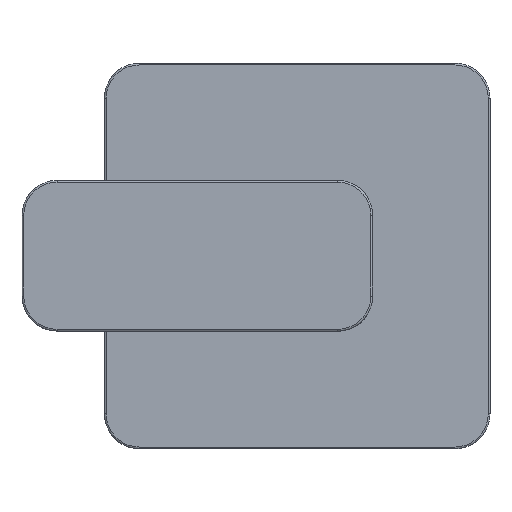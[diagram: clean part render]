
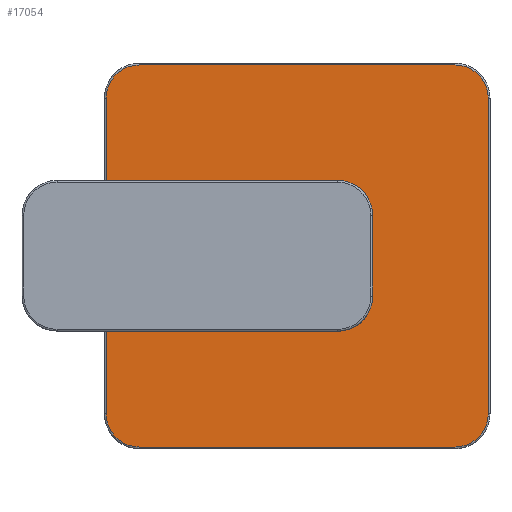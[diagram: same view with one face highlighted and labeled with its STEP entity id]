
A CAD part, top view. The second image highlights one B-rep face of the part: STEP entity #17054.
In plain terms, the highlighted planar face has unit normal (0, 0, 1).
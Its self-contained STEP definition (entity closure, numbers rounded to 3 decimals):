
#16037=CARTESIAN_POINT('',(45.,-45.,1.25));
#16038=DIRECTION('',(0.,0.,-1.));
#16039=DIRECTION('',(1.,0.,0.));
#16040=AXIS2_PLACEMENT_3D('',#16037,#16038,#16039);
#16042=CARTESIAN_POINT('',(-45.,-45.,1.25));
#16043=DIRECTION('',(0.,0.,-1.));
#16044=DIRECTION('',(0.,-1.,0.));
#16045=AXIS2_PLACEMENT_3D('',#16042,#16043,#16044);
#16047=CARTESIAN_POINT('',(-45.,45.,1.25));
#16048=DIRECTION('',(0.,0.,-1.));
#16049=DIRECTION('',(-1.,0.,0.));
#16050=AXIS2_PLACEMENT_3D('',#16047,#16048,#16049);
#16052=CARTESIAN_POINT('',(45.,45.,1.25));
#16053=DIRECTION('',(0.,0.,-1.));
#16054=DIRECTION('',(0.,1.,0.));
#16055=AXIS2_PLACEMENT_3D('',#16052,#16053,#16054);
#16057=DIRECTION('',(0.,1.,0.));
#16058=VECTOR('',#16057,22.);
#16059=CARTESIAN_POINT('',(21.3,-11.,1.25));
#16060=LINE('',#16059,#16058);
#16061=CARTESIAN_POINT('',(11.,11.,1.25));
#16062=DIRECTION('',(0.,0.,1.));
#16063=DIRECTION('',(1.,0.,0.));
#16064=AXIS2_PLACEMENT_3D('',#16061,#16062,#16063);
#16066=DIRECTION('',(-1.,0.,0.));
#16067=VECTOR('',#16066,22.);
#16068=CARTESIAN_POINT('',(11.,21.3,1.25));
#16069=LINE('',#16068,#16067);
#16070=CARTESIAN_POINT('',(-11.,11.,1.25));
#16071=DIRECTION('',(0.,0.,1.));
#16072=DIRECTION('',(0.,1.,0.));
#16073=AXIS2_PLACEMENT_3D('',#16070,#16071,#16072);
#16075=DIRECTION('',(0.,-1.,0.));
#16076=VECTOR('',#16075,22.);
#16077=CARTESIAN_POINT('',(-21.3,11.,1.25));
#16078=LINE('',#16077,#16076);
#16079=CARTESIAN_POINT('',(-11.,-11.,1.25));
#16080=DIRECTION('',(0.,0.,1.));
#16081=DIRECTION('',(-1.,0.,0.));
#16082=AXIS2_PLACEMENT_3D('',#16079,#16080,#16081);
#16084=DIRECTION('',(1.,0.,0.));
#16085=VECTOR('',#16084,22.);
#16086=CARTESIAN_POINT('',(-11.,-21.3,1.25));
#16087=LINE('',#16086,#16085);
#16088=CARTESIAN_POINT('',(11.,-11.,1.25));
#16089=DIRECTION('',(0.,0.,1.));
#16090=DIRECTION('',(0.,-1.,0.));
#16091=AXIS2_PLACEMENT_3D('',#16088,#16089,#16090);
#16093=DIRECTION('',(1.,0.,0.));
#16094=VECTOR('',#16093,90.);
#16095=CARTESIAN_POINT('',(-45.,-54.5,1.25));
#16096=LINE('',#16095,#16094);
#16124=DIRECTION('',(0.,-1.,0.));
#16125=VECTOR('',#16124,90.);
#16126=CARTESIAN_POINT('',(-54.5,45.,1.25));
#16127=LINE('',#16126,#16125);
#16155=DIRECTION('',(-1.,0.,0.));
#16156=VECTOR('',#16155,90.);
#16157=CARTESIAN_POINT('',(45.,54.5,1.25));
#16158=LINE('',#16157,#16156);
#16186=DIRECTION('',(0.,1.,0.));
#16187=VECTOR('',#16186,90.);
#16188=CARTESIAN_POINT('',(54.5,-45.,1.25));
#16189=LINE('',#16188,#16187);
#16754=CARTESIAN_POINT('',(54.5,-45.,1.25));
#16755=CARTESIAN_POINT('',(45.,-54.5,1.25));
#16756=VERTEX_POINT('',#16754);
#16757=VERTEX_POINT('',#16755);
#16758=CARTESIAN_POINT('',(-45.,-54.5,1.25));
#16759=VERTEX_POINT('',#16758);
#16760=CARTESIAN_POINT('',(-54.5,-45.,1.25));
#16761=VERTEX_POINT('',#16760);
#16762=CARTESIAN_POINT('',(-54.5,45.,1.25));
#16763=VERTEX_POINT('',#16762);
#16764=CARTESIAN_POINT('',(-45.,54.5,1.25));
#16765=VERTEX_POINT('',#16764);
#16766=CARTESIAN_POINT('',(45.,54.5,1.25));
#16767=VERTEX_POINT('',#16766);
#16768=CARTESIAN_POINT('',(54.5,45.,1.25));
#16769=VERTEX_POINT('',#16768);
#16770=CARTESIAN_POINT('',(21.3,-11.,1.25));
#16771=CARTESIAN_POINT('',(21.3,11.,1.25));
#16772=VERTEX_POINT('',#16770);
#16773=VERTEX_POINT('',#16771);
#16774=CARTESIAN_POINT('',(11.,21.3,1.25));
#16775=VERTEX_POINT('',#16774);
#16776=CARTESIAN_POINT('',(-11.,21.3,1.25));
#16777=VERTEX_POINT('',#16776);
#16778=CARTESIAN_POINT('',(-21.3,11.,1.25));
#16779=VERTEX_POINT('',#16778);
#16780=CARTESIAN_POINT('',(-21.3,-11.,1.25));
#16781=VERTEX_POINT('',#16780);
#16782=CARTESIAN_POINT('',(-11.,-21.3,1.25));
#16783=VERTEX_POINT('',#16782);
#16784=CARTESIAN_POINT('',(11.,-21.3,1.25));
#16785=VERTEX_POINT('',#16784);
#17014=CARTESIAN_POINT('',(0.,0.,1.25));
#17015=DIRECTION('',(0.,0.,1.));
#17016=DIRECTION('',(1.,0.,0.));
#17017=AXIS2_PLACEMENT_3D('',#17014,#17015,#17016);
#17018=PLANE('',#17017);
#17019=ORIENTED_EDGE('',*,*,#17004,.T.);
#17021=ORIENTED_EDGE('',*,*,#17020,.F.);
#17023=ORIENTED_EDGE('',*,*,#17022,.T.);
#17025=ORIENTED_EDGE('',*,*,#17024,.F.);
#17027=ORIENTED_EDGE('',*,*,#17026,.T.);
#17029=ORIENTED_EDGE('',*,*,#17028,.F.);
#17031=ORIENTED_EDGE('',*,*,#17030,.T.);
#17033=ORIENTED_EDGE('',*,*,#17032,.F.);
#17034=EDGE_LOOP('',(#17019,#17021,#17023,#17025,#17027,#17029,#17031,#17033));
#17035=FACE_OUTER_BOUND('',#17034,.F.);
#17037=ORIENTED_EDGE('',*,*,#17036,.T.);
#17039=ORIENTED_EDGE('',*,*,#17038,.T.);
#17041=ORIENTED_EDGE('',*,*,#17040,.T.);
#17043=ORIENTED_EDGE('',*,*,#17042,.T.);
#17045=ORIENTED_EDGE('',*,*,#17044,.T.);
#17047=ORIENTED_EDGE('',*,*,#17046,.T.);
#17049=ORIENTED_EDGE('',*,*,#17048,.T.);
#17051=ORIENTED_EDGE('',*,*,#17050,.T.);
#17052=EDGE_LOOP('',(#17037,#17039,#17041,#17043,#17045,#17047,#17049,#17051));
#17053=FACE_BOUND('',#17052,.F.);
#17054=ADVANCED_FACE('',(#17035,#17053),#17018,.T.);
#16041=CIRCLE('',#16040,9.5);
#16046=CIRCLE('',#16045,9.5);
#16051=CIRCLE('',#16050,9.5);
#16056=CIRCLE('',#16055,9.5);
#16065=CIRCLE('',#16064,10.3);
#16074=CIRCLE('',#16073,10.3);
#16083=CIRCLE('',#16082,10.3);
#16092=CIRCLE('',#16091,10.3);
#17004=EDGE_CURVE('',#16756,#16757,#16041,.T.);
#17020=EDGE_CURVE('',#16759,#16757,#16096,.T.);
#17022=EDGE_CURVE('',#16759,#16761,#16046,.T.);
#17024=EDGE_CURVE('',#16763,#16761,#16127,.T.);
#17026=EDGE_CURVE('',#16763,#16765,#16051,.T.);
#17028=EDGE_CURVE('',#16767,#16765,#16158,.T.);
#17030=EDGE_CURVE('',#16767,#16769,#16056,.T.);
#17032=EDGE_CURVE('',#16756,#16769,#16189,.T.);
#17036=EDGE_CURVE('',#16772,#16773,#16060,.T.);
#17038=EDGE_CURVE('',#16773,#16775,#16065,.T.);
#17040=EDGE_CURVE('',#16775,#16777,#16069,.T.);
#17042=EDGE_CURVE('',#16777,#16779,#16074,.T.);
#17044=EDGE_CURVE('',#16779,#16781,#16078,.T.);
#17046=EDGE_CURVE('',#16781,#16783,#16083,.T.);
#17048=EDGE_CURVE('',#16783,#16785,#16087,.T.);
#17050=EDGE_CURVE('',#16785,#16772,#16092,.T.);
